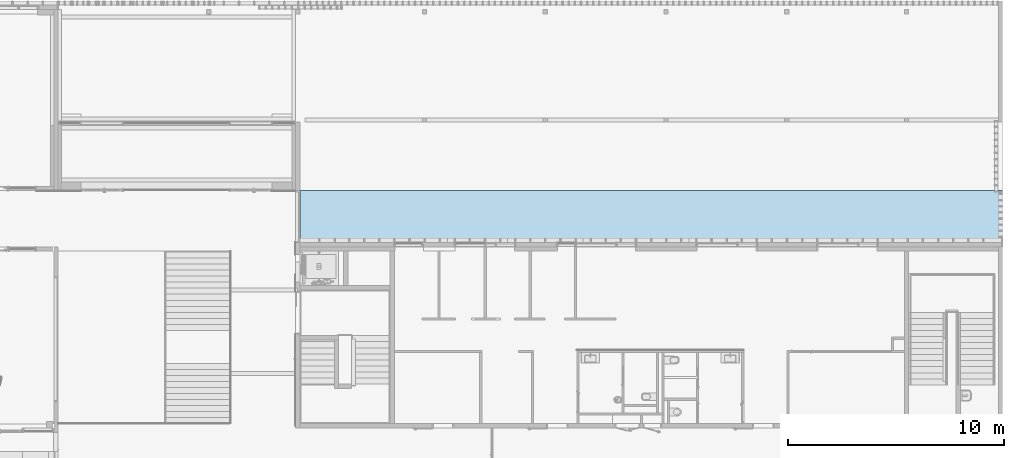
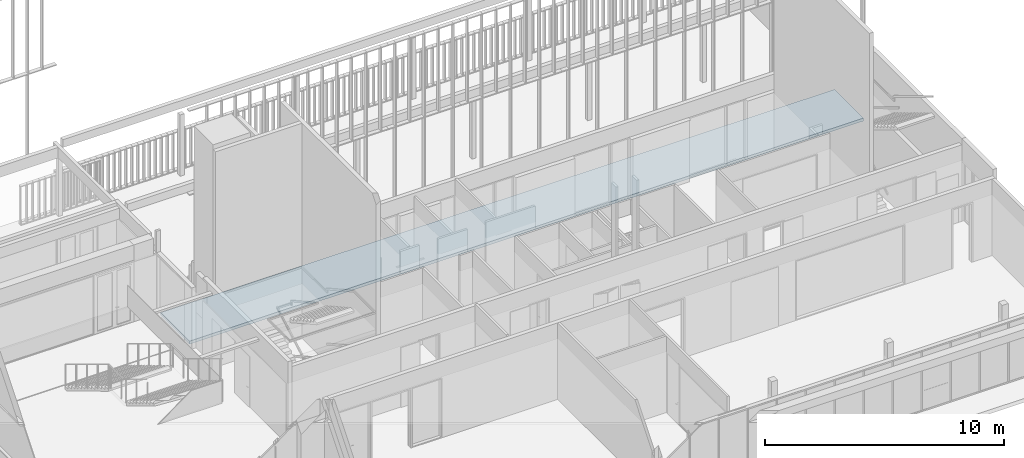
# One storey, part 75 of 240: 1 slab.
"""IFC2X3 building model written with IfcOpenShell, lengths in centimetres."""

from ifc_helpers import new_model, entity, si_unit, converted_unit, derived_unit, direction, frame, frame_2d, origin, place, context, subcontext, project, spatial, rectangle, extrude, material, layer, layer_set, layer_usage, type_object, element, save


model = new_model("IFC2X3")

# Units and contexts
model_context = context("Model", 3, precision=0.001, world=origin(), true_north=direction((6.12303176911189e-17, 1.0)))
body_context = subcontext(model_context, "Body", "Model", "MODEL_VIEW")
ifc_project = project(units=[si_unit("LENGTHUNIT", "METRE", prefix="CENTI"), si_unit("AREAUNIT", "SQUARE_METRE"), si_unit("VOLUMEUNIT", "CUBIC_METRE"), converted_unit("PLANEANGLEUNIT", "DEGREE", entity("IfcRatioMeasure", 0.0174532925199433), si_unit("PLANEANGLEUNIT", "RADIAN"), dimensions=[0, 0, 0, 0, 0, 0, 0]), si_unit("MASSUNIT", "GRAM", prefix="KILO"), derived_unit("MASSDENSITYUNIT", [(si_unit("MASSUNIT", "GRAM", prefix="KILO"), 1), (si_unit("LENGTHUNIT", "METRE"), -3)]), si_unit("TIMEUNIT", "SECOND"), si_unit("FREQUENCYUNIT", "HERTZ"), si_unit("THERMODYNAMICTEMPERATUREUNIT", "DEGREE_CELSIUS"), derived_unit("THERMALTRANSMITTANCEUNIT", [(si_unit("MASSUNIT", "GRAM", prefix="KILO"), 1), (si_unit("THERMODYNAMICTEMPERATUREUNIT", "KELVIN"), -1), (si_unit("TIMEUNIT", "SECOND"), -3)]), derived_unit("VOLUMETRICFLOWRATEUNIT", [(si_unit("LENGTHUNIT", "METRE"), 3), (si_unit("TIMEUNIT", "SECOND"), -1)]), si_unit("ELECTRICCURRENTUNIT", "AMPERE"), si_unit("ELECTRICVOLTAGEUNIT", "VOLT"), si_unit("POWERUNIT", "WATT"), si_unit("FORCEUNIT", "NEWTON", prefix="KILO"), si_unit("ILLUMINANCEUNIT", "LUX"), si_unit("LUMINOUSFLUXUNIT", "LUMEN"), si_unit("LUMINOUSINTENSITYUNIT", "CANDELA"), derived_unit("USERDEFINED", [(si_unit("MASSUNIT", "GRAM", prefix="KILO"), -1), (si_unit("LENGTHUNIT", "METRE"), -2), (si_unit("TIMEUNIT", "SECOND"), 3), (si_unit("LUMINOUSFLUXUNIT", "LUMEN"), 1)]), derived_unit("LINEARVELOCITYUNIT", [(si_unit("LENGTHUNIT", "METRE"), 1), (si_unit("TIMEUNIT", "SECOND"), -1)]), si_unit("PRESSUREUNIT", "PASCAL"), derived_unit("USERDEFINED", [(si_unit("LENGTHUNIT", "METRE"), -2), (si_unit("MASSUNIT", "GRAM", prefix="KILO"), 1), (si_unit("TIMEUNIT", "SECOND"), -2)])], contexts=[model_context])

# Site, building, storey
site_placement = place(None, frame((-2781.94577612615, 7442.24238424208, 0.0)))
site = spatial("IfcSite", under=ifc_project, at=site_placement, Name="Default", CompositionType="ELEMENT")
building_placement = place(site_placement, origin())
building = spatial("IfcBuilding", under=site, at=building_placement, CompositionType="ELEMENT")
storey_placement = place(building_placement, origin())
storey = spatial("IfcBuildingStorey", under=building, at=storey_placement, Name="N00 - COO", CompositionType="ELEMENT", Elevation=0.0)

# Slab
ifc_material = material(Name="Herbe")
ifc_layer = layer(ifc_material, 15.0)
ifc_layer_set = layer_set([ifc_layer], Name="Sol:12 - zone plantée")
ifc_layer_usage = layer_usage(ifc_layer_set, "AXIS3", "POSITIVE", 0.0)
slab_type = type_object("IfcSlabType", Name="Sol:12 - zone plantée", PredefinedType="FLOOR", material=ifc_layer_set)
slab_placement = place(building_placement, origin())
element("IfcSlab", 1, at=slab_placement, inside=storey, type_object=slab_type, material=ifc_layer_usage, Name="Sol:12 - zone plantée", ObjectType="Sol:12 - zone plantée", PredefinedType="FLOOR", context=body_context, shape_type="SweptSolid", body=[
    extrude(rectangle(XDim=241.951498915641, YDim=3257.99999684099, at=frame_2d((0.0, -2.27373675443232e-13), x_axis=(1.0, 0.0))), frame((-2018.99988126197, -951.024250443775, 0.0), z_axis=(0.0, 0.0, -1.0), x_axis=(0.0, 1.0, 0.0)), (0.0, 0.0, 1.0), 15.0),
])

save(model, "model.ifc")
